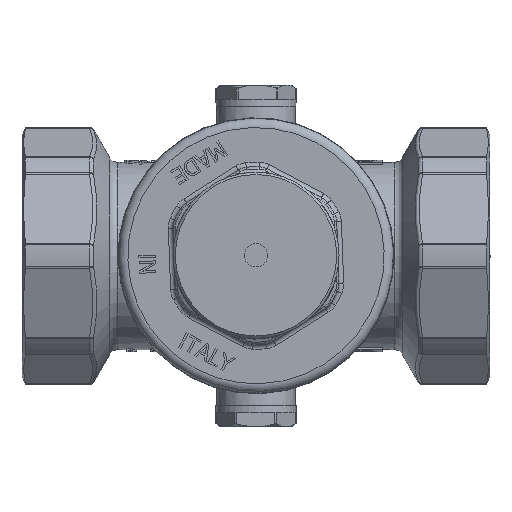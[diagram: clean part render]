
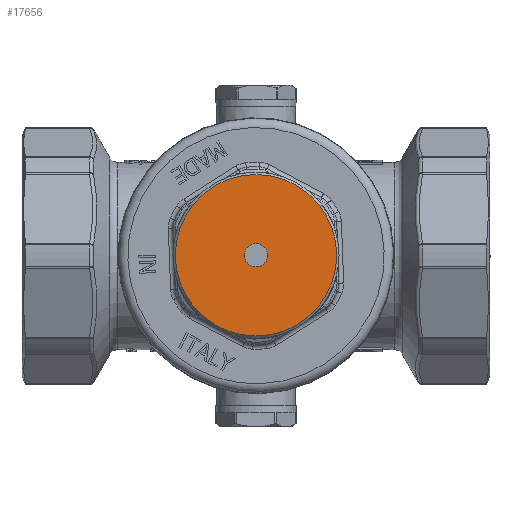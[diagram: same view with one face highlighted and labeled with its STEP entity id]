
A CAD part, top view. The second image highlights one B-rep face of the part: STEP entity #17656.
In plain terms, the highlighted planar face has unit normal (0, 0, 1).
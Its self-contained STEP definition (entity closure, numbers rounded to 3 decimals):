
#3370=FACE_BOUND('',#5272,.T.);
#3447=PLANE('',#18839);
#4218=FACE_OUTER_BOUND('',#5271,.T.);
#5271=EDGE_LOOP('',(#12626));
#5272=EDGE_LOOP('',(#12627));
#7075=CIRCLE('',#18837,17.25);
#7076=CIRCLE('',#18840,2.5);
#7934=VERTEX_POINT('',#25634);
#7935=VERTEX_POINT('',#25640);
#9708=EDGE_CURVE('',#7934,#7934,#7075,.T.);
#9710=EDGE_CURVE('',#7935,#7935,#7076,.T.);
#12626=ORIENTED_EDGE('',*,*,#9708,.F.);
#12627=ORIENTED_EDGE('',*,*,#9710,.T.);
#17656=ADVANCED_FACE('',(#4218,#3370),#3447,.F.);
#18837=AXIS2_PLACEMENT_3D('',#25636,#20759,#20760);
#18839=AXIS2_PLACEMENT_3D('',#25639,#20764,#20765);
#18840=AXIS2_PLACEMENT_3D('',#25641,#20766,#20767);
#20759=DIRECTION('center_axis',(0.,0.,
-1.));
#20760=DIRECTION('ref_axis',(-1.,0.,0.));
#20764=DIRECTION('center_axis',(0.,0.,
-1.));
#20765=DIRECTION('ref_axis',(-1.,0.,0.));
#20766=DIRECTION('center_axis',(0.,0.,
-1.));
#20767=DIRECTION('ref_axis',(1.,0.,0.));
#25634=CARTESIAN_POINT('',(17.25,0.,135.));
#25636=CARTESIAN_POINT('Origin',(0.,0.,
135.));
#25639=CARTESIAN_POINT('Origin',(0.,0.,
135.));
#25640=CARTESIAN_POINT('',(-2.5,0.,135.));
#25641=CARTESIAN_POINT('Origin',(0.,0.,
135.));
